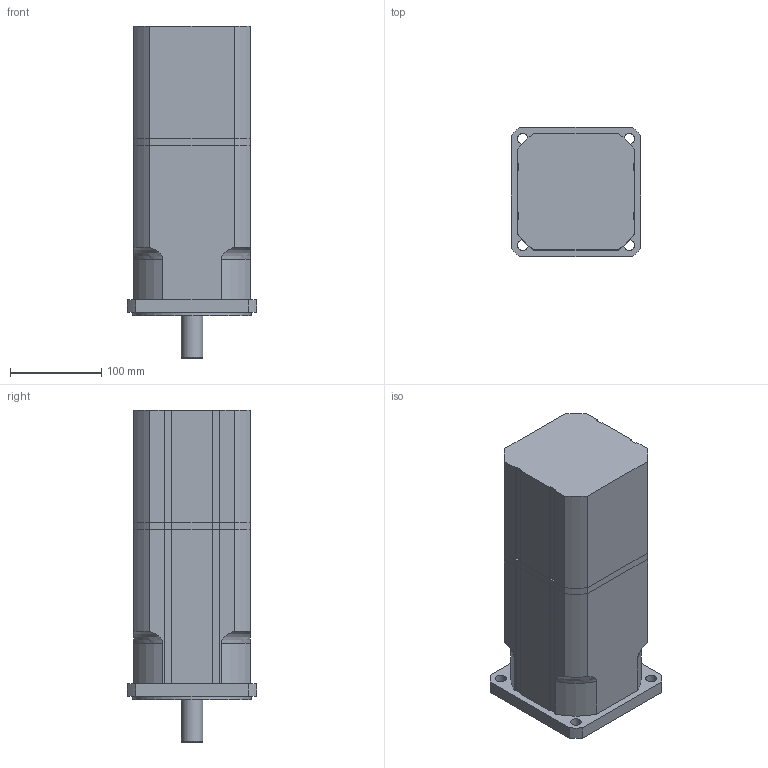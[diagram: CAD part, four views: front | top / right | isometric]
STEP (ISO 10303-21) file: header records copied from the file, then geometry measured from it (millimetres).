
FILE_DESCRIPTION(/* description */ ('Alibre Inc.'),/* implementation_level */ '2;1');
FILE_NAME(/* name */ 'export2',/* time_stamp */ '2013-07-23T08:19:44+02:00',/* author */ (''),/* organization */ (''),/* preprocessor_version */ 'ST-DEVELOPER v12',/* originating_system */ 'Alibre',/* authorisation */ '');
FILE_SCHEMA (('ALIBRE_SCHEMA','CONFIG_CONTROL_DESIGN'));
Length unit declared in the file: millimetre
Products named in the file (6): ID_1
Bounding box: 142 x 142 x 364 mm (x, y, z)
Volume: 5544938.6 mm3; surface area: 281412.1 mm2
Topology: 5 solids, 5 shells, 176 faces, 470 edges, 313 vertices
Faces by surface type: plane 88, cylinder 76, cone 7, torus 4, bspline 1
Full cylindrical faces by diameter (mm): 2.7 x4, 6.647 x1, 12 x4, 20 x5, 22 x2, 24 x1, 130 x1
Entity records: 21224 total; most frequent: CARTESIAN_POINT 4707, ORIENTED_EDGE 2588, DIRECTION 2560, EDGE_CURVE 1294, AXIS2_PLACEMENT_3D 962, VECTOR 913, VERTEX_POINT 906, LINE 868
